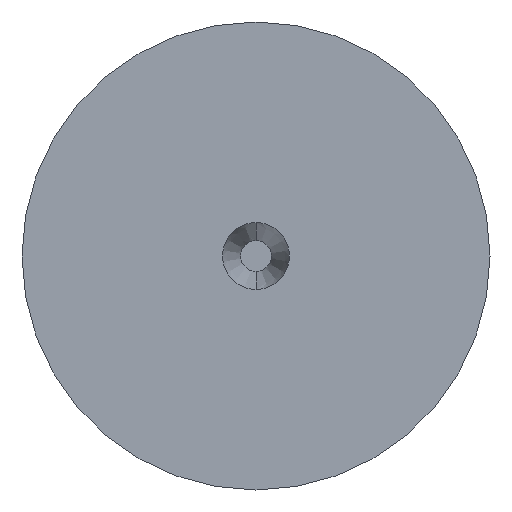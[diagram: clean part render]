
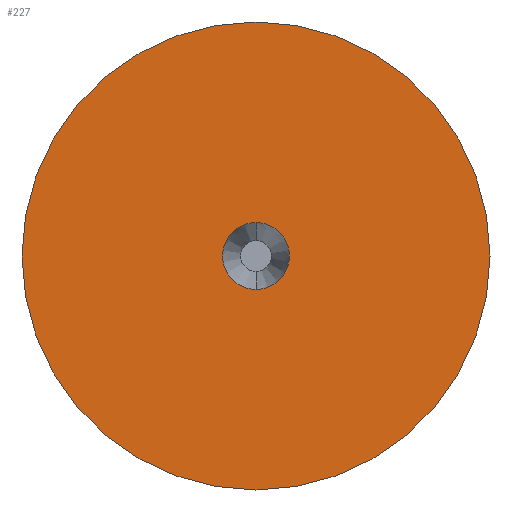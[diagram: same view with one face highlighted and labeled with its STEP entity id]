
A CAD part, left-side view. The second image highlights one B-rep face of the part: STEP entity #227.
In plain terms, the highlighted planar face has unit normal (-1, 0, 0).
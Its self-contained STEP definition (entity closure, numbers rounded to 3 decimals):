
#3 = CARTESIAN_POINT ( 'NONE',  ( 0., 0., 1.05 ) ) ;
#8 = EDGE_CURVE ( 'NONE', #140, #152, #279, .T. ) ;
#13 = CIRCLE ( 'NONE', #271, 0.15 ) ;
#15 = CARTESIAN_POINT ( 'NONE',  ( 0., 0., 0. ) ) ;
#16 = DIRECTION ( 'NONE',  ( -1., 0., 0. ) ) ;
#34 = EDGE_CURVE ( 'NONE', #152, #140, #275, .T. ) ;
#72 = AXIS2_PLACEMENT_3D ( 'NONE', #173, #16, #94 ) ;
#82 = FACE_BOUND ( 'NONE', #252, .T. ) ;
#83 = ORIENTED_EDGE ( 'NONE', *, *, #214, .F. ) ;
#94 = DIRECTION ( 'NONE',  ( 0., 0., 1. ) ) ;
#119 = AXIS2_PLACEMENT_3D ( 'NONE', #265, #268, #267 ) ;
#128 = CARTESIAN_POINT ( 'NONE',  ( 0., 0., 0.15 ) ) ;
#129 = ORIENTED_EDGE ( 'NONE', *, *, #8, .T. ) ;
#137 = VERTEX_POINT ( 'NONE', #128 ) ;
#140 = VERTEX_POINT ( 'NONE', #229 ) ;
#148 = CARTESIAN_POINT ( 'NONE',  ( 0., 0., 0. ) ) ;
#152 = VERTEX_POINT ( 'NONE', #3 ) ;
#161 = VERTEX_POINT ( 'NONE', #196 ) ;
#162 = DIRECTION ( 'NONE',  ( 0., 0., 1. ) ) ;
#166 = DIRECTION ( 'NONE',  ( -1., 0., 0. ) ) ;
#173 = CARTESIAN_POINT ( 'NONE',  ( 0., 0., 0. ) ) ;
#181 = DIRECTION ( 'NONE',  ( 0., 0., 1. ) ) ;
#185 = CIRCLE ( 'NONE', #233, 0.15 ) ;
#188 = ORIENTED_EDGE ( 'NONE', *, *, #262, .F. ) ;
#196 = CARTESIAN_POINT ( 'NONE',  ( 0., 0., -0.15 ) ) ;
#202 = EDGE_LOOP ( 'NONE', ( #238, #129 ) ) ;
#214 = EDGE_CURVE ( 'NONE', #137, #161, #185, .T. ) ;
#227 = ADVANCED_FACE ( 'NONE', ( #82, #231 ), #291, .F. ) ;
#229 = CARTESIAN_POINT ( 'NONE',  ( 0., 0., -1.05 ) ) ;
#231 = FACE_OUTER_BOUND ( 'NONE', #202, .T. ) ;
#233 = AXIS2_PLACEMENT_3D ( 'NONE', #289, #288, #286 ) ;
#238 = ORIENTED_EDGE ( 'NONE', *, *, #34, .T. ) ;
#252 = EDGE_LOOP ( 'NONE', ( #83, #188 ) ) ;
#255 = AXIS2_PLACEMENT_3D ( 'NONE', #15, #266, #181 ) ;
#262 = EDGE_CURVE ( 'NONE', #161, #137, #13, .T. ) ;
#265 = CARTESIAN_POINT ( 'NONE',  ( 0., 0., 0. ) ) ;
#266 = DIRECTION ( 'NONE',  ( -1., 0., 0. ) ) ;
#267 = DIRECTION ( 'NONE',  ( 0., 0., -1. ) ) ;
#268 = DIRECTION ( 'NONE',  ( 1., 0., 0. ) ) ;
#271 = AXIS2_PLACEMENT_3D ( 'NONE', #148, #166, #162 ) ;
#275 = CIRCLE ( 'NONE', #255, 1.05 ) ;
#279 = CIRCLE ( 'NONE', #72, 1.05 ) ;
#286 = DIRECTION ( 'NONE',  ( 0., 0., 1. ) ) ;
#288 = DIRECTION ( 'NONE',  ( -1., 0., 0. ) ) ;
#289 = CARTESIAN_POINT ( 'NONE',  ( 0., 0., 0. ) ) ;
#291 = PLANE ( 'NONE',  #119 ) ;
